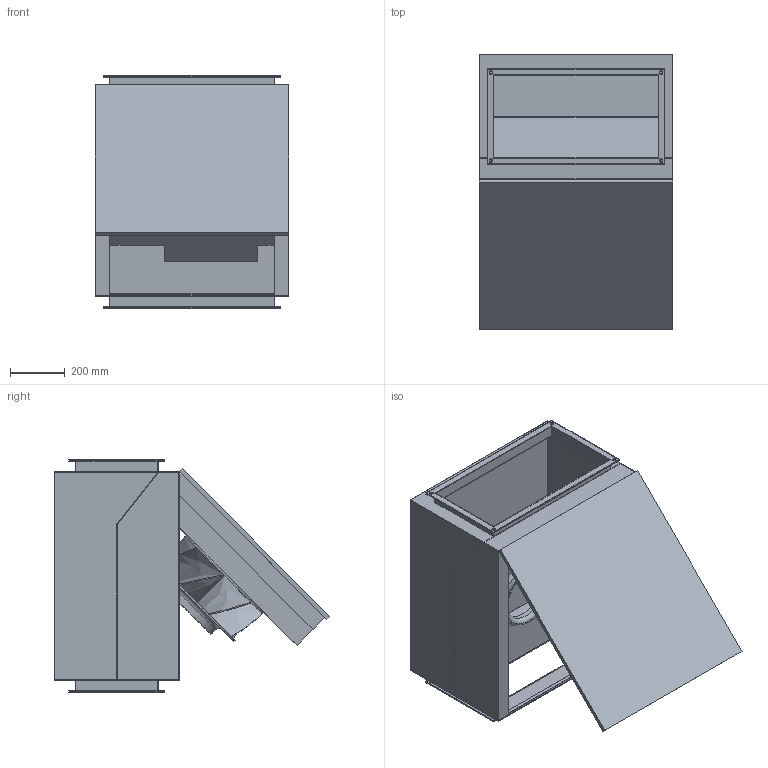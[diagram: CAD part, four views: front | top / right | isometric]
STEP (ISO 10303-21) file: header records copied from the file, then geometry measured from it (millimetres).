
FILE_DESCRIPTION(/* description */ (''),/* implementation_level */ '2;1');
FILE_NAME(/* name */ 'Z:\Output\SKRW EC 355-60-30-08176-001.stp',/* time_stamp */ '2017-05-05T17:06:06+02:00',/* author */ ('Engineering1'),/* organization */ (''),/* preprocessor_version */ 'ST-DEVELOPER v16.5',/* originating_system */ 'Autodesk Inventor 2017',/* authorisation */ '');
FILE_SCHEMA (('AUTOMOTIVE_DESIGN { 1 0 10303 214 3 1 1 }'));
Length unit declared in the file: millimetre
Products named in the file (1): SKR-1
Bounding box: 708 x 1007.13 x 849 mm (x, y, z)
Volume: 65505688.5 mm3; surface area: 7750725.5 mm2
Topology: 1 solids, 1 shells, 205 faces, 555 edges, 325 vertices
Faces by surface type: plane 156, bspline 24, cylinder 22, torus 3
Full cylindrical faces by diameter (mm): 9 x8, 13 x8, 200 x1, 222.222 x1, 240 x1, 242.222 x1, 400 x2
Entity records: 6723 total; most frequent: CARTESIAN_POINT 1625, ORIENTED_EDGE 1058, DIRECTION 963, EDGE_CURVE 528, LINE 409, VECTOR 409, VERTEX_POINT 323, EDGE_LOOP 284
